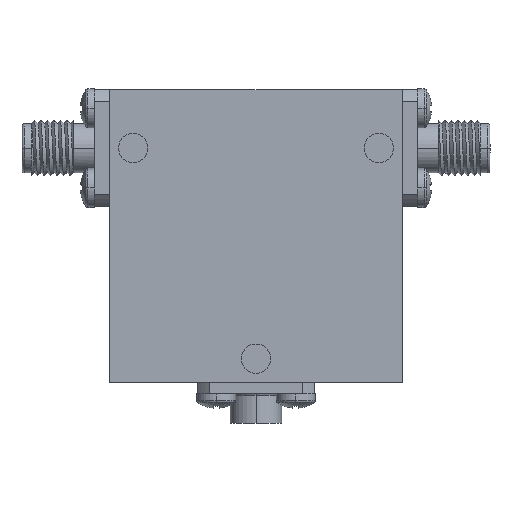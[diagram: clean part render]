
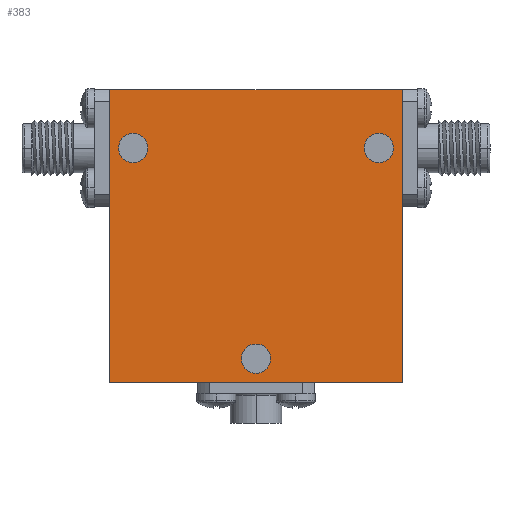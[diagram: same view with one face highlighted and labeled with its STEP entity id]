
A CAD part, top view. The second image highlights one B-rep face of the part: STEP entity #383.
In plain terms, the highlighted planar face has unit normal (0, 0, 1).
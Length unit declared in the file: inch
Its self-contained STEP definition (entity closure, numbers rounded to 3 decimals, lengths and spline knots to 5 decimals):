
#41 = DIRECTION ( 'NONE',  ( 1., 0., 0. ) ) ;
#56 = EDGE_LOOP ( 'NONE', ( #2345, #3312 ) ) ;
#65 = CARTESIAN_POINT ( 'NONE',  ( 0., -0.525, 0.35 ) ) ;
#88 = PLANE ( 'NONE',  #303 ) ;
#103 = FACE_OUTER_BOUND ( 'NONE', #2697, .T. ) ;
#129 = CARTESIAN_POINT ( 'NONE',  ( -0.625, 0.625, 0.35 ) ) ;
#154 = ORIENTED_EDGE ( 'NONE', *, *, #2983, .F. ) ;
#258 = DIRECTION ( 'NONE',  ( 1., 0., 0. ) ) ;
#302 = ORIENTED_EDGE ( 'NONE', *, *, #612, .T. ) ;
#303 = AXIS2_PLACEMENT_3D ( 'NONE', #3412, #412, #41 ) ;
#332 = VERTEX_POINT ( 'NONE', #3097 ) ;
#363 = CIRCLE ( 'NONE', #2534, 0.0625 ) ;
#383 = ADVANCED_FACE ( 'NONE', ( #4155, #1390, #4097, #103 ), #88, .T. ) ;
#389 = CARTESIAN_POINT ( 'NONE',  ( -0.625, 0.625, 0.35 ) ) ;
#412 = DIRECTION ( 'NONE',  ( 0., 0., 1. ) ) ;
#415 = AXIS2_PLACEMENT_3D ( 'NONE', #4094, #4493, #2233 ) ;
#438 = VERTEX_POINT ( 'NONE', #2696 ) ;
#489 = CARTESIAN_POINT ( 'NONE',  ( -0.525, 0.375, 0.35 ) ) ;
#539 = EDGE_CURVE ( 'NONE', #332, #2592, #3286, .T. ) ;
#566 = CARTESIAN_POINT ( 'NONE',  ( 0.625, -0.625, 0.35 ) ) ;
#612 = EDGE_CURVE ( 'NONE', #1401, #4766, #1512, .T. ) ;
#676 = DIRECTION ( 'NONE',  ( 1., 0., 0. ) ) ;
#700 = VERTEX_POINT ( 'NONE', #4334 ) ;
#701 = ORIENTED_EDGE ( 'NONE', *, *, #2448, .T. ) ;
#784 = VERTEX_POINT ( 'NONE', #4473 ) ;
#792 = AXIS2_PLACEMENT_3D ( 'NONE', #65, #3825, #3469 ) ;
#864 = EDGE_CURVE ( 'NONE', #784, #4034, #3626, .T. ) ;
#872 = EDGE_CURVE ( 'NONE', #2011, #438, #913, .T. ) ;
#876 = DIRECTION ( 'NONE',  ( 1., 0., 0. ) ) ;
#913 = CIRCLE ( 'NONE', #3750, 0.0625 ) ;
#991 = ORIENTED_EDGE ( 'NONE', *, *, #864, .T. ) ;
#1039 = VECTOR ( 'NONE', #3020, 39.37008 ) ;
#1178 = CARTESIAN_POINT ( 'NONE',  ( 0.625, 0.625, 0.35 ) ) ;
#1390 = FACE_BOUND ( 'NONE', #4674, .T. ) ;
#1401 = VERTEX_POINT ( 'NONE', #1178 ) ;
#1512 = LINE ( 'NONE', #129, #1687 ) ;
#1687 = VECTOR ( 'NONE', #3573, 39.37008 ) ;
#1731 = CARTESIAN_POINT ( 'NONE',  ( -0.625, 0.625, 0.35 ) ) ;
#1806 = AXIS2_PLACEMENT_3D ( 'NONE', #3858, #3840, #4639 ) ;
#1979 = AXIS2_PLACEMENT_3D ( 'NONE', #489, #3129, #876 ) ;
#2011 = VERTEX_POINT ( 'NONE', #3279 ) ;
#2016 = DIRECTION ( 'NONE',  ( 0., 1., 0. ) ) ;
#2024 = ORIENTED_EDGE ( 'NONE', *, *, #4112, .T. ) ;
#2030 = ORIENTED_EDGE ( 'NONE', *, *, #2536, .F. ) ;
#2032 = DIRECTION ( 'NONE',  ( 0., 0., 1. ) ) ;
#2088 = LINE ( 'NONE', #2342, #4137 ) ;
#2206 = CARTESIAN_POINT ( 'NONE',  ( -0.625, -0.625, 0.35 ) ) ;
#2233 = DIRECTION ( 'NONE',  ( 1., 0., 0. ) ) ;
#2342 = CARTESIAN_POINT ( 'NONE',  ( 0.625, 0.625, 0.35 ) ) ;
#2345 = ORIENTED_EDGE ( 'NONE', *, *, #872, .F. ) ;
#2448 = EDGE_CURVE ( 'NONE', #4034, #1401, #2088, .T. ) ;
#2534 = AXIS2_PLACEMENT_3D ( 'NONE', #2756, #2032, #2769 ) ;
#2536 = EDGE_CURVE ( 'NONE', #2592, #332, #4200, .T. ) ;
#2592 = VERTEX_POINT ( 'NONE', #4246 ) ;
#2674 = ORIENTED_EDGE ( 'NONE', *, *, #3670, .F. ) ;
#2696 = CARTESIAN_POINT ( 'NONE',  ( 0.4625, 0.375, 0.35 ) ) ;
#2697 = EDGE_LOOP ( 'NONE', ( #701, #302, #2024, #991 ) ) ;
#2756 = CARTESIAN_POINT ( 'NONE',  ( 0., -0.525, 0.35 ) ) ;
#2769 = DIRECTION ( 'NONE',  ( 1., 0., 0. ) ) ;
#2829 = CARTESIAN_POINT ( 'NONE',  ( 0.0625, -0.525, 0.35 ) ) ;
#2934 = CARTESIAN_POINT ( 'NONE',  ( 0.525, 0.375, 0.35 ) ) ;
#2983 = EDGE_CURVE ( 'NONE', #700, #3398, #3199, .T. ) ;
#3020 = DIRECTION ( 'NONE',  ( 0., -1., 0. ) ) ;
#3097 = CARTESIAN_POINT ( 'NONE',  ( -0.5875, 0.375, 0.35 ) ) ;
#3099 = LINE ( 'NONE', #389, #1039 ) ;
#3116 = ORIENTED_EDGE ( 'NONE', *, *, #539, .F. ) ;
#3129 = DIRECTION ( 'NONE',  ( 0., 0., 1. ) ) ;
#3199 = CIRCLE ( 'NONE', #792, 0.0625 ) ;
#3267 = CIRCLE ( 'NONE', #415, 0.0625 ) ;
#3279 = CARTESIAN_POINT ( 'NONE',  ( 0.5875, 0.375, 0.35 ) ) ;
#3286 = CIRCLE ( 'NONE', #1979, 0.0625 ) ;
#3312 = ORIENTED_EDGE ( 'NONE', *, *, #4421, .F. ) ;
#3374 = EDGE_LOOP ( 'NONE', ( #2030, #3116 ) ) ;
#3398 = VERTEX_POINT ( 'NONE', #2829 ) ;
#3412 = CARTESIAN_POINT ( 'NONE',  ( 0., 0., 0.35 ) ) ;
#3469 = DIRECTION ( 'NONE',  ( 1., 0., 0. ) ) ;
#3510 = VECTOR ( 'NONE', #258, 39.37008 ) ;
#3573 = DIRECTION ( 'NONE',  ( -1., 0., 0. ) ) ;
#3626 = LINE ( 'NONE', #2206, #3510 ) ;
#3670 = EDGE_CURVE ( 'NONE', #3398, #700, #363, .T. ) ;
#3750 = AXIS2_PLACEMENT_3D ( 'NONE', #2934, #4062, #676 ) ;
#3825 = DIRECTION ( 'NONE',  ( 0., 0., 1. ) ) ;
#3840 = DIRECTION ( 'NONE',  ( 0., 0., 1. ) ) ;
#3858 = CARTESIAN_POINT ( 'NONE',  ( -0.525, 0.375, 0.35 ) ) ;
#4034 = VERTEX_POINT ( 'NONE', #566 ) ;
#4062 = DIRECTION ( 'NONE',  ( 0., 0., 1. ) ) ;
#4094 = CARTESIAN_POINT ( 'NONE',  ( 0.525, 0.375, 0.35 ) ) ;
#4097 = FACE_BOUND ( 'NONE', #3374, .T. ) ;
#4112 = EDGE_CURVE ( 'NONE', #4766, #784, #3099, .T. ) ;
#4137 = VECTOR ( 'NONE', #2016, 39.37008 ) ;
#4155 = FACE_BOUND ( 'NONE', #56, .T. ) ;
#4200 = CIRCLE ( 'NONE', #1806, 0.0625 ) ;
#4246 = CARTESIAN_POINT ( 'NONE',  ( -0.4625, 0.375, 0.35 ) ) ;
#4334 = CARTESIAN_POINT ( 'NONE',  ( -0.0625, -0.525, 0.35 ) ) ;
#4421 = EDGE_CURVE ( 'NONE', #438, #2011, #3267, .T. ) ;
#4473 = CARTESIAN_POINT ( 'NONE',  ( -0.625, -0.625, 0.35 ) ) ;
#4493 = DIRECTION ( 'NONE',  ( 0., 0., 1. ) ) ;
#4639 = DIRECTION ( 'NONE',  ( 1., 0., 0. ) ) ;
#4674 = EDGE_LOOP ( 'NONE', ( #2674, #154 ) ) ;
#4766 = VERTEX_POINT ( 'NONE', #1731 ) ;
